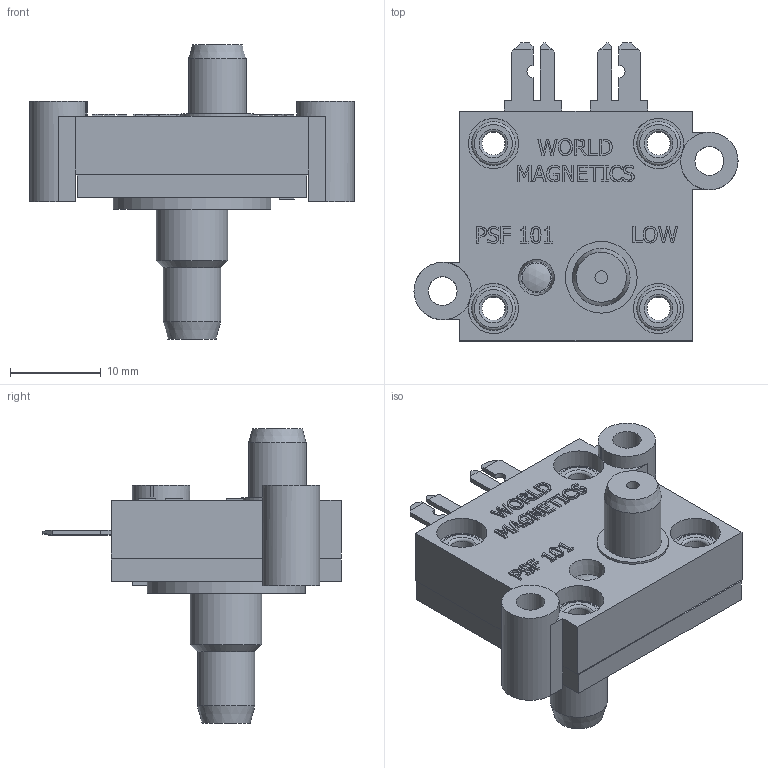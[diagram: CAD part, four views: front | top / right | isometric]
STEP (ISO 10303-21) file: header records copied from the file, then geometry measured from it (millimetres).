
FILE_DESCRIPTION((''),'2;1');
FILE_NAME('G:\DRAWINGS\SWITCH\INVENTOR DRAWINGS\WORLD MAGNETICS SWITCH\WM SALES STP FILES\833X.stp','2011-06-14T09:46:19',('dale'),(''),'Autodesk Inventor 2009','Autodesk Inventor 2009','');
FILE_SCHEMA(('AUTOMOTIVE_DESIGN { 1 0 10303 214 1 1 1 1 }'));
Length unit declared in the file: inch
Products named in the file (7): 833X; 60328-STP; 60094-STP; 60093-STP; 60815-STP; 60193 - .251 THK ROLLED; 60099-STP
Assembly tree (9 placements, depth 2):
  833X
    60328-STP
    60094-STP
    60093-STP
    60815-STP
    60193 - .251 THK ROLLED  x4
    60099-STP
Bounding box: 35.81 x 32.94 x 32.51 mm (x, y, z)
Volume: 6838 mm3; surface area: 6134.4 mm2
Topology: 9 solids, 9 shells, 592 faces, 1504 edges, 992 vertices
Faces by surface type: plane 356, bspline 183, cylinder 30, torus 16, cone 6, sphere 1
Full cylindrical faces by diameter (mm): 2.565 x4, 3.073 x4, 3.175 x1, 4.572 x4, 4.826 x4, 5.08 x4, 6.35 x2, 7.925 x2, 17.45 x1
Entity records: 18123 total; most frequent: CARTESIAN_POINT 5704, ORIENTED_EDGE 2718, DIRECTION 1926, EDGE_CURVE 1359, VECTOR 988, LINE 988, VERTEX_POINT 929, EDGE_LOOP 652
